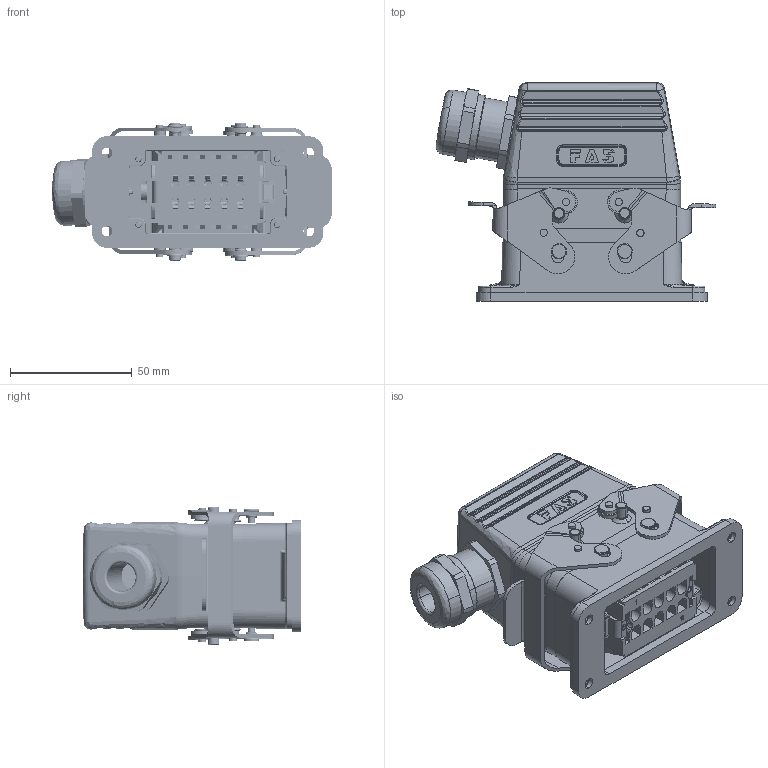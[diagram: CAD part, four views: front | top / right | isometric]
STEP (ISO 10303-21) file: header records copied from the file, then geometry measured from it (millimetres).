
FILE_DESCRIPTION (( 'STEP AP214' ), '1' );
FILE_NAME ('09010101120M HE、10针、开孔底座、侧出M20套件、配金属接头.STEP', '2024-04-26T05:44:51', ( 'L' ), ( '' ), 'SwSTEP 2.0', 'SolidWorks 2019', '' );
FILE_SCHEMA (( 'AUTOMOTIVE_DESIGN' ));
Length unit declared in the file: millimetre
Products named in the file (6): HE-010-F.stp; H10B-AG.step; H10B-TS-M20.step; HE-010-M.stp; 09010101120M HE、10针、开孔底座、侧出M20套件、配金属接头; FAS-20-M.step
Assembly tree (5 placements, depth 2):
  09010101120M HE、10针、开孔底座、侧出M20套件、配金属接头
    H10B-AG.step
    HE-010-F.stp
    HE-010-M.stp
    H10B-TS-M20.step
    FAS-20-M.step
Bounding box: 114.95 x 89.8 x 56.4 mm (x, y, z)
Volume: 170220.5 mm3; surface area: 107022.9 mm2
Topology: 5 solids, 18 shells, 5064 faces, 13555 edges, 8527 vertices
Faces by surface type: plane 2286, cylinder 1122, bspline 971, cone 463, torus 186, sphere 36
Entity records: 216610 total; most frequent: CARTESIAN_POINT 87332, ORIENTED_EDGE 26854, DIRECTION 20584, EDGE_CURVE 13427, VERTEX_POINT 8503, AXIS2_PLACEMENT_3D 6980, LINE 6624, VECTOR 6624
